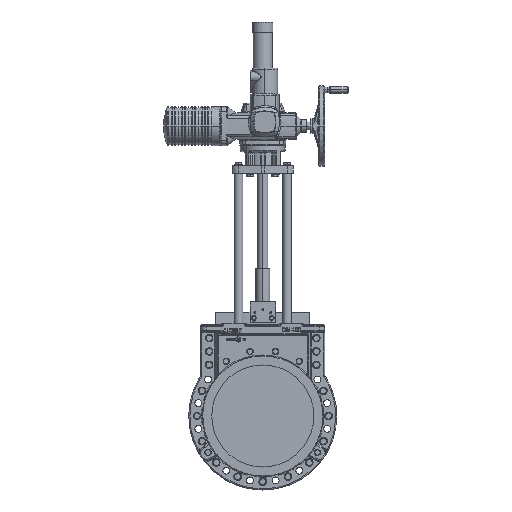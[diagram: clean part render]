
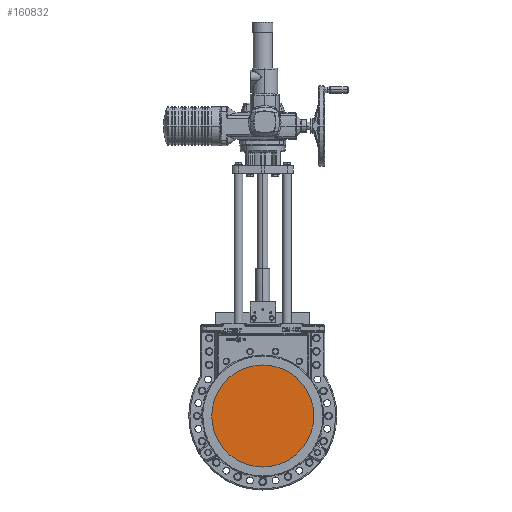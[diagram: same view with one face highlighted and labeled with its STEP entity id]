
A CAD part, top view. The second image highlights one B-rep face of the part: STEP entity #160832.
In plain terms, the highlighted planar face has unit normal (0, 0, 1).
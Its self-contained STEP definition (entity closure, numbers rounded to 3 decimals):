
#5855 = ORIENTED_EDGE ( 'NONE', *, *, #124692, .T. ) ;
#27497 = CARTESIAN_POINT ( 'NONE',  ( 0., 0., -0.25 ) ) ;
#35438 = CARTESIAN_POINT ( 'NONE',  ( 0., 0., -0.25 ) ) ;
#35445 = PLANE ( 'NONE',  #102832 ) ;
#37626 = VERTEX_POINT ( 'NONE', #65844 ) ;
#41090 = DIRECTION ( 'NONE',  ( 1., 0., 0. ) ) ;
#49051 = DIRECTION ( 'NONE',  ( 1., 0., 0. ) ) ;
#65844 = CARTESIAN_POINT ( 'NONE',  ( 200., 0., -0.25 ) ) ;
#76153 = DIRECTION ( 'NONE',  ( 0., 0., 1. ) ) ;
#80924 = CIRCLE ( 'NONE', #148196, 200. ) ;
#92064 = VERTEX_POINT ( 'NONE', #109901 ) ;
#102832 = AXIS2_PLACEMENT_3D ( 'NONE', #169721, #76153, #170854 ) ;
#109901 = CARTESIAN_POINT ( 'NONE',  ( -200., 0., -0.25 ) ) ;
#111118 = EDGE_LOOP ( 'NONE', ( #5855, #133109 ) ) ;
#121986 = DIRECTION ( 'NONE',  ( 0., 0., 1. ) ) ;
#123298 = EDGE_CURVE ( 'NONE', #37626, #92064, #138066, .T. ) ;
#124692 = EDGE_CURVE ( 'NONE', #92064, #37626, #80924, .T. ) ;
#129916 = DIRECTION ( 'NONE',  ( 0., 0., 1. ) ) ;
#133109 = ORIENTED_EDGE ( 'NONE', *, *, #123298, .T. ) ;
#138066 = CIRCLE ( 'NONE', #161348, 200. ) ;
#148196 = AXIS2_PLACEMENT_3D ( 'NONE', #35438, #129916, #49051 ) ;
#160832 = ADVANCED_FACE ( 'NONE', ( #163386 ), #35445, .T. ) ;
#161348 = AXIS2_PLACEMENT_3D ( 'NONE', #27497, #121986, #41090 ) ;
#163386 = FACE_OUTER_BOUND ( 'NONE', #111118, .T. ) ;
#169721 = CARTESIAN_POINT ( 'NONE',  ( 0., 0., -0.25 ) ) ;
#170854 = DIRECTION ( 'NONE',  ( 1., 0., 0. ) ) ;
